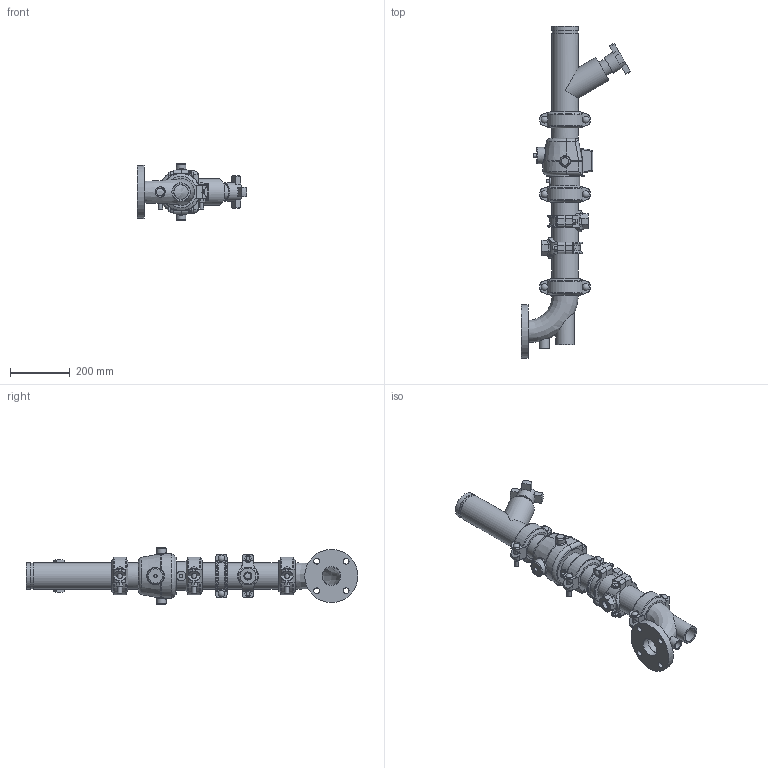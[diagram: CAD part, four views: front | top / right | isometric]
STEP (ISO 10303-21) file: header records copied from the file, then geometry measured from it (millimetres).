
FILE_DESCRIPTION(/* description */ (''),/* implementation_level */ '2;1');
FILE_NAME(/* name */ 'P:\Inventor CPS India\2021\To be checked\Pump Drop GDP\STEP\Victaulic_IPS_Horizontal DVI_CL 150_Series 383\Victaulic_IPS_Horizontal DVI_CL 150_Series 383 (OGSxFLG)_03.0x02.5 (80x65).stp',/* time_stamp */ '2022-04-07T12:22:36+06:00',/* author */ ('Vjadhav'),/* organization */ (''),/* preprocessor_version */ 'ST-DEVELOPER v16.1',/* originating_system */ 'Autodesk Inventor 2016',/* authorisation */ '');
FILE_SCHEMA (('AUTOMOTIVE_DESIGN { 1 0 10303 214 3 1 1 }'));
Length unit declared in the file: inch
Products named in the file (9): 177N-04; Pipe-02; 716H-04; 789-02; 920N LOWER HSG-05; 920NT-HSG-17; 920NT-17; R100F-02; Victaulic_IPS_Horizontal DVI_CL 150_Series 383 (OGSxFLG)
Assembly tree (11 placements, depth 3):
  Victaulic_IPS_Horizontal DVI_CL 150_Series 383 (OGSxFLG)
    177N-04  x3
    Pipe-02
    716H-04
    789-02
    920NT-17  x2
      920N LOWER HSG-05
      920NT-HSG-17
    R100F-02
Bounding box: 365.25 x 1109.66 x 190.5 mm (x, y, z)
Volume: 5932938.4 mm3; surface area: 1103961.5 mm2
Topology: 11 solids, 11 shells, 685 faces, 1727 edges, 1116 vertices
Faces by surface type: plane 344, cylinder 238, bspline 39, torus 35, sphere 16, cone 13
Full cylindrical faces by diameter (mm): 11.43 x2, 12.7 x8, 14.605 x12, 19.05 x4, 20.93 x2, 21.982 x4, 22.225 x6, 26.67 x1, 26.924 x2, 31.75 x2, 32.004 x1, 34.29 x1, 48.26 x1, 50.8 x1, 53.975 x1, 60.96 x2, 62.713 x1, 76.2 x3, 77.927 x3, 80.772 x1, 84.938 x7, 88.9 x18, 97.028 x1, 127 x1, 177.8 x1
Entity records: 13797 total; most frequent: CARTESIAN_POINT 4391, DIRECTION 1846, ORIENTED_EDGE 1742, EDGE_CURVE 864, AXIS2_PLACEMENT_3D 725, VERTEX_POINT 587, EDGE_LOOP 517, LINE 396
